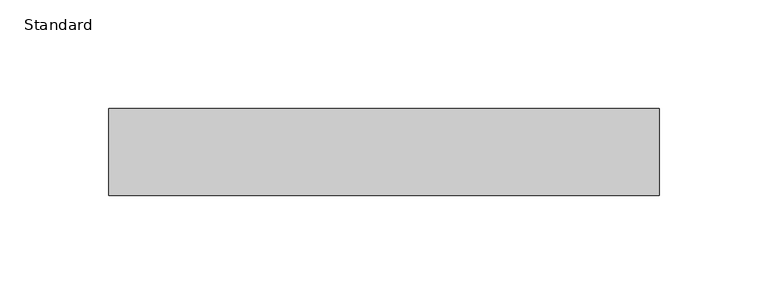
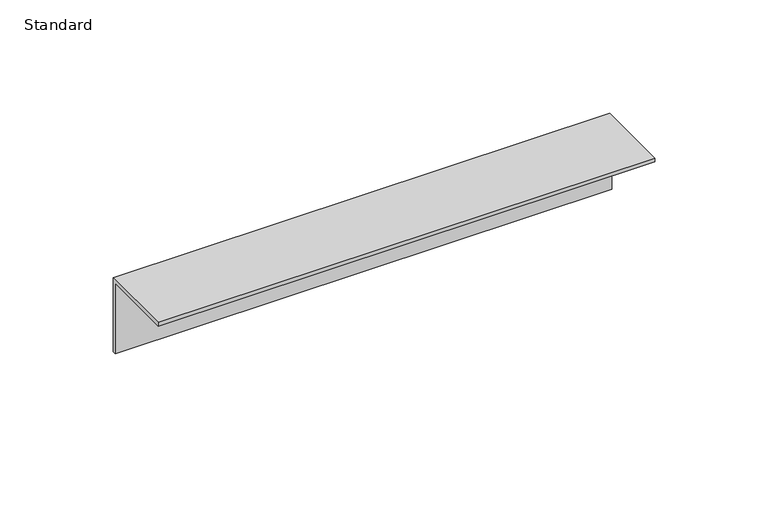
"""IFC4 building model written with IfcOpenShell, lengths in millimetres: furniture geometry, X_Vanity-Angle-Duracube-Bench Support : Standard."""

from ifc_helpers import new_model, si_unit, frame, origin, place, context, project, spatial, polyline, outline, extrude, source, transform, mapped, element, save


def standard_95317439(model_context):
    return source(origin(), model_context, "Body", "SweptSolid", [
        extrude(outline(polyline([(0.0, 0.0), (-2.0, 0.0), (-2.0, 38.0), (-40.0, 38.0), (-40.0, 40.0), (0.0, 40.0), (0.0, 0.0)])), frame((-82.0496736, 0.0, 0.0), z_axis=(1.0, 0.0, 0.0), x_axis=(0.0, 1.0, 0.0)), (0.0, 0.0, 1.0), 253.5),
    ])


if __name__ == "__main__":
    model = new_model("IFC4")
    model_context = context("Model", 3, world=origin())
    ifc_project = project(units=[si_unit("LENGTHUNIT", "METRE", prefix="MILLI")], contexts=[model_context])
    site = spatial("IfcSite", under=ifc_project)
    building = spatial("IfcBuilding", under=site)
    placement = place(None, origin())
    standard_shape = standard_95317439(model_context)
    element("IfcFurniture", 1, ObjectType="X_Vanity-Angle-Duracube-Bench Support : Standard", at=placement, inside=building, context=model_context, shape_type="MappedRepresentation", body=[
        mapped(standard_shape, transform((0.0, 0.0, 0.0), x_axis=(1.0, 0.0, 0.0), y_axis=(0.0, 1.0, 0.0), z_axis=(0.0, 0.0, 1.0))),
    ])
    save(model, "model.ifc")
